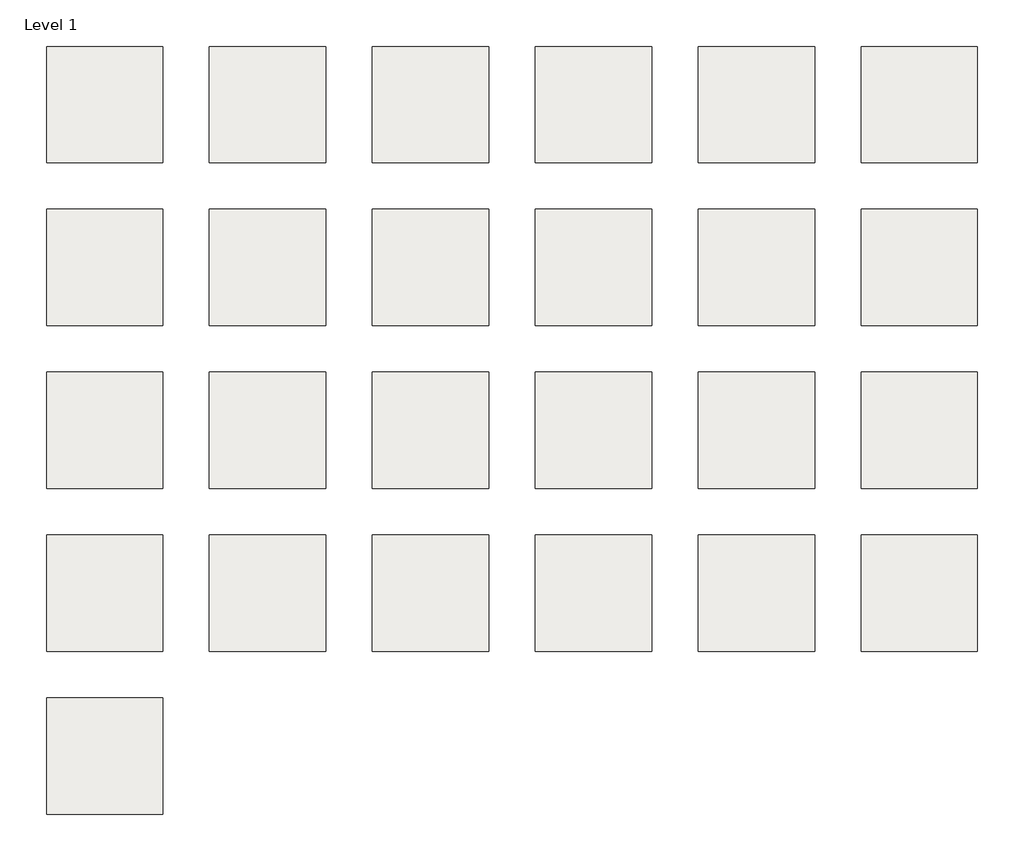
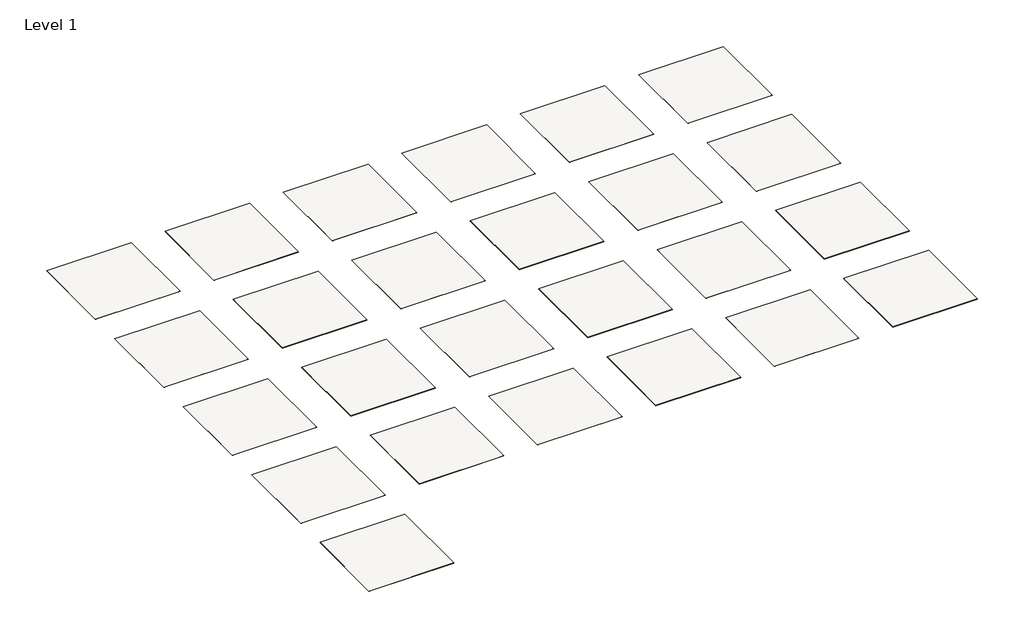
# One storey: 25 slabs.
"""IFC4 building model written with IfcOpenShell, lengths in millimetres."""

from ifc_helpers import new_model, si_unit, frame, origin, place, context, project, spatial, polyline, outline, extrude, element, save

model = new_model("IFC4")

# Units and contexts
model_context = context("Model", 3, world=origin())
ifc_project = project(units=[si_unit("LENGTHUNIT", "METRE", prefix="MILLI")], contexts=[model_context])

# Site, building, storey
site = spatial("IfcSite", under=ifc_project)
building = spatial("IfcBuilding", under=site)
storey = spatial("IfcBuildingStorey", under=building, Name="Level 1", Elevation=0.0)

# Slabs
placement = place(None, origin())
element("IfcSlab", 1, ObjectType="AHF Contract®_Vinyl Composition Tile_HR001_Blue Sapphire", at=placement, inside=storey, context=model_context, shape_type="SweptSolid", body=[
    extrude(outline(polyline([(1219.2, 6400.8), (1219.2, 4876.8), (-304.8, 4876.8), (-304.8, 6400.8), (1219.2, 6400.8)])), frame((0.0, 0.0, -3.175), z_axis=(0.0, 0.0, 1.0), x_axis=(1.0, 0.0, 0.0)), (0.0, 0.0, 1.0), 3.175),
])
element("IfcSlab", 2, ObjectType="AHF Contract®_Vinyl Composition Tile_HR002_Corinthian Cobalt", at=placement, inside=storey, context=model_context, shape_type="SweptSolid", body=[
    extrude(outline(polyline([(3352.8, 6400.8), (3352.8, 4876.8), (1828.8, 4876.8), (1828.8, 6400.8), (3352.8, 6400.8)])), frame((0.0, 0.0, -3.175), z_axis=(0.0, 0.0, 1.0), x_axis=(1.0, 0.0, 0.0)), (0.0, 0.0, 1.0), 3.175),
])
element("IfcSlab", 3, ObjectType="AHF Contract®_Vinyl Composition Tile_HR003_Santorini Blue", at=placement, inside=storey, context=model_context, shape_type="SweptSolid", body=[
    extrude(outline(polyline([(5486.4, 6400.8), (5486.4, 4876.8), (3962.4, 4876.8), (3962.4, 6400.8), (5486.4, 6400.8)])), frame((0.0, 0.0, -3.175), z_axis=(0.0, 0.0, 1.0), x_axis=(1.0, 0.0, 0.0)), (0.0, 0.0, 1.0), 3.175),
])
element("IfcSlab", 4, ObjectType="AHF Contract®_Vinyl Composition Tile_HR004_Coast Azure", at=placement, inside=storey, context=model_context, shape_type="SweptSolid", body=[
    extrude(outline(polyline([(7620.0, 6400.8), (7620.0, 4876.8), (6096.0, 4876.8), (6096.0, 6400.8), (7620.0, 6400.8)])), frame((0.0, 0.0, -3.175), z_axis=(0.0, 0.0, 1.0), x_axis=(1.0, 0.0, 0.0)), (0.0, 0.0, 1.0), 3.175),
])
element("IfcSlab", 5, ObjectType="AHF Contract®_Vinyl Composition Tile_HR005_Mediterranean Blue", at=placement, inside=storey, context=model_context, shape_type="SweptSolid", body=[
    extrude(outline(polyline([(9753.6, 6400.8), (9753.6, 4876.8), (8229.6, 4876.8), (8229.6, 6400.8), (9753.6, 6400.8)])), frame((0.0, 0.0, -3.175), z_axis=(0.0, 0.0, 1.0), x_axis=(1.0, 0.0, 0.0)), (0.0, 0.0, 1.0), 3.175),
])
element("IfcSlab", 6, ObjectType="AHF Contract®_Vinyl Composition Tile_HR006_Blue Mosaic", at=placement, inside=storey, context=model_context, shape_type="SweptSolid", body=[
    extrude(outline(polyline([(11887.2, 6400.8), (11887.2, 4876.8), (10363.2, 4876.8), (10363.2, 6400.8), (11887.2, 6400.8)])), frame((0.0, 0.0, -3.175), z_axis=(0.0, 0.0, 1.0), x_axis=(1.0, 0.0, 0.0)), (0.0, 0.0, 1.0), 3.175),
])
element("IfcSlab", 7, ObjectType="AHF Contract®_Vinyl Composition Tile_HR007_Delphi Fog", at=placement, inside=storey, context=model_context, shape_type="SweptSolid", body=[
    extrude(outline(polyline([(1219.2, 4267.2), (1219.2, 2743.2), (-304.8, 2743.2), (-304.8, 4267.2), (1219.2, 4267.2)])), frame((0.0, 0.0, -3.175), z_axis=(0.0, 0.0, 1.0), x_axis=(1.0, 0.0, 0.0)), (0.0, 0.0, 1.0), 3.175),
])
element("IfcSlab", 8, ObjectType="AHF Contract®_Vinyl Composition Tile_HR008_Parthenon Pine", at=placement, inside=storey, context=model_context, shape_type="SweptSolid", body=[
    extrude(outline(polyline([(3352.8, 4267.2), (3352.8, 2743.2), (1828.8, 2743.2), (1828.8, 4267.2), (3352.8, 4267.2)])), frame((0.0, 0.0, -3.175), z_axis=(0.0, 0.0, 1.0), x_axis=(1.0, 0.0, 0.0)), (0.0, 0.0, 1.0), 3.175),
])
element("IfcSlab", 9, ObjectType="AHF Contract®_Vinyl Composition Tile_HR009_Elysian Green", at=placement, inside=storey, context=model_context, shape_type="SweptSolid", body=[
    extrude(outline(polyline([(5486.4, 4267.2), (5486.4, 2743.2), (3962.4, 2743.2), (3962.4, 4267.2), (5486.4, 4267.2)])), frame((0.0, 0.0, -3.175), z_axis=(0.0, 0.0, 1.0), x_axis=(1.0, 0.0, 0.0)), (0.0, 0.0, 1.0), 3.175),
])
element("IfcSlab", 10, ObjectType="AHF Contract®_Vinyl Composition Tile_HR010_Demeter Apple", at=placement, inside=storey, context=model_context, shape_type="SweptSolid", body=[
    extrude(outline(polyline([(7620.0, 4267.2), (7620.0, 2743.2), (6096.0, 2743.2), (6096.0, 4267.2), (7620.0, 4267.2)])), frame((0.0, 0.0, -3.175), z_axis=(0.0, 0.0, 1.0), x_axis=(1.0, 0.0, 0.0)), (0.0, 0.0, 1.0), 3.175),
])
element("IfcSlab", 11, ObjectType="AHF Contract®_Vinyl Composition Tile_HR011_Green Olive", at=placement, inside=storey, context=model_context, shape_type="SweptSolid", body=[
    extrude(outline(polyline([(9753.6, 4267.2), (9753.6, 2743.2), (8229.6, 2743.2), (8229.6, 4267.2), (9753.6, 4267.2)])), frame((0.0, 0.0, -3.175), z_axis=(0.0, 0.0, 1.0), x_axis=(1.0, 0.0, 0.0)), (0.0, 0.0, 1.0), 3.175),
])
element("IfcSlab", 12, ObjectType="AHF Contract®_Vinyl Composition Tile_HR012_Grecian Meadow", at=placement, inside=storey, context=model_context, shape_type="SweptSolid", body=[
    extrude(outline(polyline([(11887.2, 4267.2), (11887.2, 2743.2), (10363.2, 2743.2), (10363.2, 4267.2), (11887.2, 4267.2)])), frame((0.0, 0.0, -3.175), z_axis=(0.0, 0.0, 1.0), x_axis=(1.0, 0.0, 0.0)), (0.0, 0.0, 1.0), 3.175),
])
element("IfcSlab", 13, ObjectType="AHF Contract®_Vinyl Composition Tile_HR013_Ithaca Waters", at=placement, inside=storey, context=model_context, shape_type="SweptSolid", body=[
    extrude(outline(polyline([(1219.2, 2133.6), (1219.2, 609.6), (-304.8, 609.6), (-304.8, 2133.6), (1219.2, 2133.6)])), frame((0.0, 0.0, -3.175), z_axis=(0.0, 0.0, 1.0), x_axis=(1.0, 0.0, 0.0)), (0.0, 0.0, 1.0), 3.175),
])
element("IfcSlab", 14, ObjectType="AHF Contract®_Vinyl Composition Tile_HR014_Delicate Glow", at=placement, inside=storey, context=model_context, shape_type="SweptSolid", body=[
    extrude(outline(polyline([(3352.8, 2133.6), (3352.8, 609.6), (1828.8, 609.6), (1828.8, 2133.6), (3352.8, 2133.6)])), frame((0.0, 0.0, -3.175), z_axis=(0.0, 0.0, 1.0), x_axis=(1.0, 0.0, 0.0)), (0.0, 0.0, 1.0), 3.175),
])
element("IfcSlab", 15, ObjectType="AHF Contract®_Vinyl Composition Tile_HR015_Olympian Gold", at=placement, inside=storey, context=model_context, shape_type="SweptSolid", body=[
    extrude(outline(polyline([(5486.4, 2133.6), (5486.4, 609.6), (3962.4, 609.6), (3962.4, 2133.6), (5486.4, 2133.6)])), frame((0.0, 0.0, -3.175), z_axis=(0.0, 0.0, 1.0), x_axis=(1.0, 0.0, 0.0)), (0.0, 0.0, 1.0), 3.175),
])
element("IfcSlab", 16, ObjectType="AHF Contract®_Vinyl Composition Tile_HR016_Acropolis Apricot", at=placement, inside=storey, context=model_context, shape_type="SweptSolid", body=[
    extrude(outline(polyline([(7620.0, 2133.6), (7620.0, 609.6), (6096.0, 609.6), (6096.0, 2133.6), (7620.0, 2133.6)])), frame((0.0, 0.0, -3.175), z_axis=(0.0, 0.0, 1.0), x_axis=(1.0, 0.0, 0.0)), (0.0, 0.0, 1.0), 3.175),
])
element("IfcSlab", 17, ObjectType="AHF Contract®_Vinyl Composition Tile_HR017_Helios Hot", at=placement, inside=storey, context=model_context, shape_type="SweptSolid", body=[
    extrude(outline(polyline([(9753.6, 2133.6), (9753.6, 609.6), (8229.6, 609.6), (8229.6, 2133.6), (9753.6, 2133.6)])), frame((0.0, 0.0, -3.175), z_axis=(0.0, 0.0, 1.0), x_axis=(1.0, 0.0, 0.0)), (0.0, 0.0, 1.0), 3.175),
])
element("IfcSlab", 18, ObjectType="AHF Contract®_Vinyl Composition Tile_HR018_Acropolis Red", at=placement, inside=storey, context=model_context, shape_type="SweptSolid", body=[
    extrude(outline(polyline([(11887.2, 2133.6), (11887.2, 609.6), (10363.2, 609.6), (10363.2, 2133.6), (11887.2, 2133.6)])), frame((0.0, 0.0, -3.175), z_axis=(0.0, 0.0, 1.0), x_axis=(1.0, 0.0, 0.0)), (0.0, 0.0, 1.0), 3.175),
])
element("IfcSlab", 19, ObjectType="AHF Contract®_Vinyl Composition Tile_HR019_Vermilion Flame", at=placement, inside=storey, context=model_context, shape_type="SweptSolid", body=[
    extrude(outline(polyline([(1219.2, 0.0), (1219.2, -1524.0), (-304.8, -1524.0), (-304.8, 0.0), (1219.2, 0.0)])), frame((0.0, 0.0, -3.175), z_axis=(0.0, 0.0, 1.0), x_axis=(1.0, 0.0, 0.0)), (0.0, 0.0, 1.0), 3.175),
])
element("IfcSlab", 20, ObjectType="AHF Contract®_Vinyl Composition Tile_HR020_Gaia Garnet", at=placement, inside=storey, context=model_context, shape_type="SweptSolid", body=[
    extrude(outline(polyline([(3352.8, 0.0), (3352.8, -1524.0), (1828.8, -1524.0), (1828.8, 0.0), (3352.8, 0.0)])), frame((0.0, 0.0, -3.175), z_axis=(0.0, 0.0, 1.0), x_axis=(1.0, 0.0, 0.0)), (0.0, 0.0, 1.0), 3.175),
])
element("IfcSlab", 21, ObjectType="AHF Contract®_Vinyl Composition Tile_HR021_Terra Clay", at=placement, inside=storey, context=model_context, shape_type="SweptSolid", body=[
    extrude(outline(polyline([(5486.4, 0.0), (5486.4, -1524.0), (3962.4, -1524.0), (3962.4, 0.0), (5486.4, 0.0)])), frame((0.0, 0.0, -3.175), z_axis=(0.0, 0.0, 1.0), x_axis=(1.0, 0.0, 0.0)), (0.0, 0.0, 1.0), 3.175),
])
element("IfcSlab", 22, ObjectType="AHF Contract®_Vinyl Composition Tile_HR022_Phoenix Plum", at=placement, inside=storey, context=model_context, shape_type="SweptSolid", body=[
    extrude(outline(polyline([(7620.0, 0.0), (7620.0, -1524.0), (6096.0, -1524.0), (6096.0, 0.0), (7620.0, 0.0)])), frame((0.0, 0.0, -3.175), z_axis=(0.0, 0.0, 1.0), x_axis=(1.0, 0.0, 0.0)), (0.0, 0.0, 1.0), 3.175),
])
element("IfcSlab", 23, ObjectType="AHF Contract®_Vinyl Composition Tile_HR023_Bacchus Wine", at=placement, inside=storey, context=model_context, shape_type="SweptSolid", body=[
    extrude(outline(polyline([(9753.6, 0.0), (9753.6, -1524.0), (8229.6, -1524.0), (8229.6, 0.0), (9753.6, 0.0)])), frame((0.0, 0.0, -3.175), z_axis=(0.0, 0.0, 1.0), x_axis=(1.0, 0.0, 0.0)), (0.0, 0.0, 1.0), 3.175),
])
element("IfcSlab", 24, ObjectType="AHF Contract®_Vinyl Composition Tile_HR024_Amethyst Charm", at=placement, inside=storey, context=model_context, shape_type="SweptSolid", body=[
    extrude(outline(polyline([(11887.2, 0.0), (11887.2, -1524.0), (10363.2, -1524.0), (10363.2, 0.0), (11887.2, 0.0)])), frame((0.0, 0.0, -3.175), z_axis=(0.0, 0.0, 1.0), x_axis=(1.0, 0.0, 0.0)), (0.0, 0.0, 1.0), 3.175),
])
element("IfcSlab", 25, ObjectType="AHF Contract®_Vinyl Composition Tile_HR025_Aphrodite's Kiss", at=placement, inside=storey, context=model_context, shape_type="SweptSolid", body=[
    extrude(outline(polyline([(1219.2, -2133.6), (1219.2, -3657.6), (-304.8, -3657.6), (-304.8, -2133.6), (1219.2, -2133.6)])), frame((0.0, 0.0, -3.175), z_axis=(0.0, 0.0, 1.0), x_axis=(1.0, 0.0, 0.0)), (0.0, 0.0, 1.0), 3.175),
])

save(model, "model.ifc")
